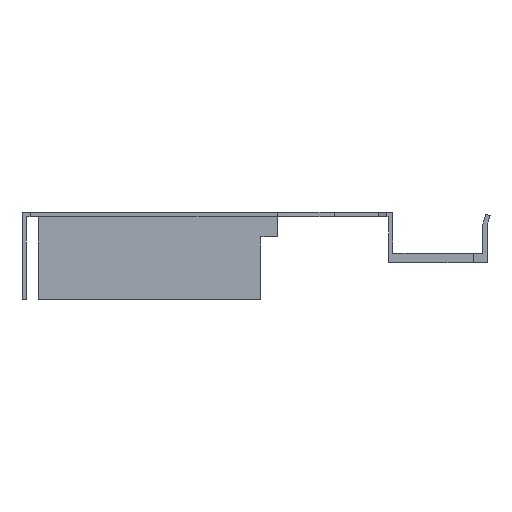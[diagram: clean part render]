
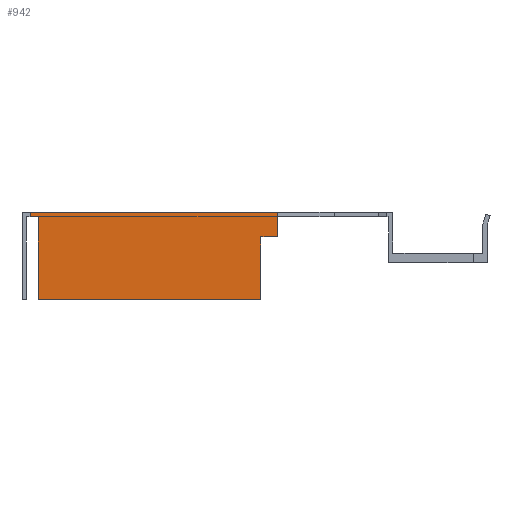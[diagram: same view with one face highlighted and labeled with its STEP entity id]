
A CAD part, left-side view. The second image highlights one B-rep face of the part: STEP entity #942.
In plain terms, the highlighted planar face has unit normal (-1, 0, 0).
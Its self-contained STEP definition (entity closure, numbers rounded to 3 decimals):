
#53 = CARTESIAN_POINT ( 'NONE',  ( -765., 66.5, 6.7 ) ) ;
#60 = CARTESIAN_POINT ( 'NONE',  ( -765., 21.2, 3. ) ) ;
#78 = CARTESIAN_POINT ( 'NONE',  ( -765., 24.2, -8.5 ) ) ;
#100 = CARTESIAN_POINT ( 'NONE',  ( -765., 65., 6.7 ) ) ;
#108 = CARTESIAN_POINT ( 'NONE',  ( -765., 65., -8.5 ) ) ;
#117 = CARTESIAN_POINT ( 'NONE',  ( -765., 21.2, 7.5 ) ) ;
#123 = CARTESIAN_POINT ( 'NONE',  ( -765., 24.2, 3. ) ) ;
#127 = CARTESIAN_POINT ( 'NONE',  ( -765., 66.5, 7.5 ) ) ;
#186 = CARTESIAN_POINT ( 'NONE',  ( -765., 65., -8.5 ) ) ;
#190 = CARTESIAN_POINT ( 'NONE',  ( -765., 21.2, 0. ) ) ;
#191 = DIRECTION ( 'NONE',  ( 0., 0., -1. ) ) ;
#192 = DIRECTION ( 'NONE',  ( 0., -1., 0. ) ) ;
#204 = DIRECTION ( 'NONE',  ( 0., 0., -1. ) ) ;
#205 = CARTESIAN_POINT ( 'NONE',  ( -765., 65., 7.5 ) ) ;
#206 = CARTESIAN_POINT ( 'NONE',  ( -765., 66.5, 6.7 ) ) ;
#207 = DIRECTION ( 'NONE',  ( 0., 0., 1. ) ) ;
#208 = DIRECTION ( 'NONE',  ( 0., -1., 0. ) ) ;
#209 = CARTESIAN_POINT ( 'NONE',  ( -765., 24.2, 3. ) ) ;
#424 = EDGE_LOOP ( 'NONE', ( #521, #516, #517, #518, #500, #501, #512, #497 ) ) ;
#497 = ORIENTED_EDGE ( 'NONE', *, *, #1014, .F. ) ;
#500 = ORIENTED_EDGE ( 'NONE', *, *, #1068, .T. ) ;
#501 = ORIENTED_EDGE ( 'NONE', *, *, #1087, .T. ) ;
#512 = ORIENTED_EDGE ( 'NONE', *, *, #1083, .F. ) ;
#516 = ORIENTED_EDGE ( 'NONE', *, *, #1038, .F. ) ;
#517 = ORIENTED_EDGE ( 'NONE', *, *, #1085, .T. ) ;
#518 = ORIENTED_EDGE ( 'NONE', *, *, #1082, .T. ) ;
#521 = ORIENTED_EDGE ( 'NONE', *, *, #1086, .F. ) ;
#706 = LINE ( 'NONE', #1531, #713 ) ;
#713 = VECTOR ( 'NONE', #1534, 1000. ) ;
#761 = LINE ( 'NONE', #1581, #762 ) ;
#762 = VECTOR ( 'NONE', #1582, 1000. ) ;
#814 = LINE ( 'NONE', #1644, #816 ) ;
#816 = VECTOR ( 'NONE', #1645, 1000. ) ;
#846 = LINE ( 'NONE', #186, #847 ) ;
#847 = VECTOR ( 'NONE', #192, 1000. ) ;
#848 = LINE ( 'NONE', #190, #849 ) ;
#849 = VECTOR ( 'NONE', #191, 1000. ) ;
#852 = LINE ( 'NONE', #205, #853 ) ;
#853 = VECTOR ( 'NONE', #204, 1000. ) ;
#854 = LINE ( 'NONE', #206, #855 ) ;
#855 = VECTOR ( 'NONE', #207, 1000. ) ;
#856 = LINE ( 'NONE', #209, #857 ) ;
#857 = VECTOR ( 'NONE', #208, 1000. ) ;
#942 = ADVANCED_FACE ( 'NONE', ( #1673 ), #1244, .T. ) ;
#1014 = EDGE_CURVE ( 'NONE', #1320, #1310, #706, .T. ) ;
#1038 = EDGE_CURVE ( 'NONE', #1291, #1243, #761, .T. ) ;
#1068 = EDGE_CURVE ( 'NONE', #1269, #1316, #814, .T. ) ;
#1082 = EDGE_CURVE ( 'NONE', #1299, #1269, #846, .T. ) ;
#1083 = EDGE_CURVE ( 'NONE', #1310, #1251, #848, .T. ) ;
#1085 = EDGE_CURVE ( 'NONE', #1291, #1299, #852, .T. ) ;
#1086 = EDGE_CURVE ( 'NONE', #1243, #1320, #854, .T. ) ;
#1087 = EDGE_CURVE ( 'NONE', #1316, #1251, #856, .T. ) ;
#1140 = AXIS2_PLACEMENT_3D ( 'NONE', #1324, #1330, #1331 ) ;
#1243 = VERTEX_POINT ( 'NONE', #53 ) ;
#1244 = PLANE ( 'NONE',  #1140 ) ;
#1251 = VERTEX_POINT ( 'NONE', #60 ) ;
#1269 = VERTEX_POINT ( 'NONE', #78 ) ;
#1291 = VERTEX_POINT ( 'NONE', #100 ) ;
#1299 = VERTEX_POINT ( 'NONE', #108 ) ;
#1310 = VERTEX_POINT ( 'NONE', #117 ) ;
#1316 = VERTEX_POINT ( 'NONE', #123 ) ;
#1320 = VERTEX_POINT ( 'NONE', #127 ) ;
#1324 = CARTESIAN_POINT ( 'NONE',  ( -765., -16.5, 0. ) ) ;
#1330 = DIRECTION ( 'NONE',  ( -1., 0., 0. ) ) ;
#1331 = DIRECTION ( 'NONE',  ( 0., 0., 1. ) ) ;
#1531 = CARTESIAN_POINT ( 'NONE',  ( -765., 0., 7.5 ) ) ;
#1534 = DIRECTION ( 'NONE',  ( 0., -1., 0. ) ) ;
#1581 = CARTESIAN_POINT ( 'NONE',  ( -765., 0.8, 6.7 ) ) ;
#1582 = DIRECTION ( 'NONE',  ( 0., 1., 0. ) ) ;
#1644 = CARTESIAN_POINT ( 'NONE',  ( -765., 24.2, -8.5 ) ) ;
#1645 = DIRECTION ( 'NONE',  ( 0., 0., 1. ) ) ;
#1673 = FACE_OUTER_BOUND ( 'NONE', #424, .T. ) ;
